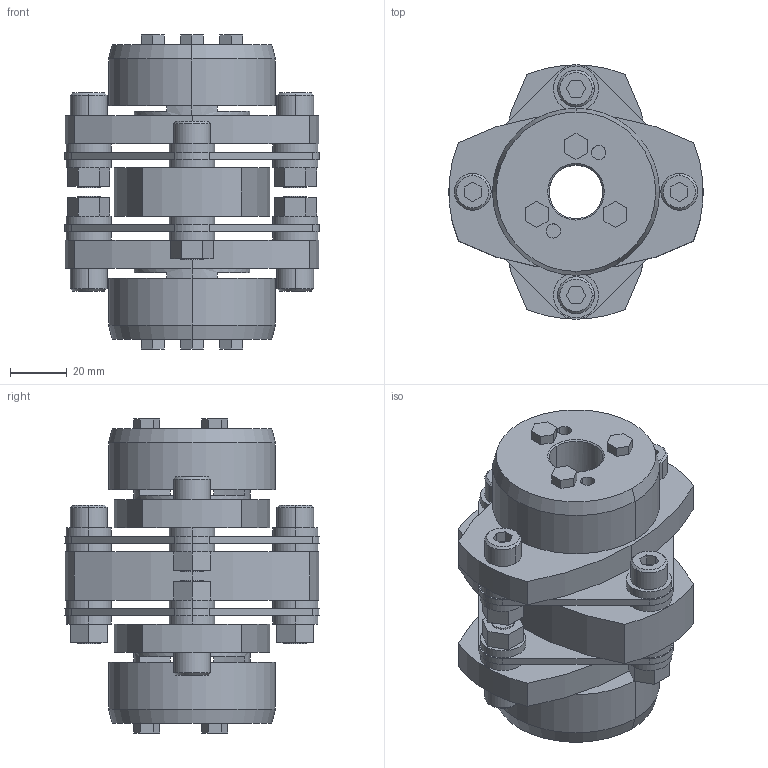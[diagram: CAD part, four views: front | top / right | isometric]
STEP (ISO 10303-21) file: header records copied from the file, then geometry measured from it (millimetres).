
FILE_DESCRIPTION((''),'2;1');
FILE_NAME('LCD-90T7-19×19.stp','2011-09-09T10:28:49',(''),(''),'AutoCAD STEP 2000i','AutoCAD 2000i',', , ');
FILE_SCHEMA(('CONFIG_CONTROL_DESIGN'));
Length unit declared in the file: millimetre
Products named in the file (5): LCD-90T7-19×19; 忣兜1; LC90T7-T019-1; LC90T7-T019; LCD90-ITA
Assembly tree (4 placements, depth 2):
  LCD-90T7-19×19
    忣兜1
    LC90T7-T019-1
    LC90T7-T019
    LCD90-ITA
Bounding box: 90 x 89.94 x 111 mm (x, y, z)
Volume: 278952.5 mm3; surface area: 73924.5 mm2
Topology: 1 solids, 1 shells, 320 faces, 780 edges, 512 vertices
Faces by surface type: plane 176, cylinder 120, cone 24
Entity records: 9635 total; most frequent: DIRECTION 1710, CARTESIAN_POINT 1617, ORIENTED_EDGE 1560, EDGE_CURVE 780, AXIS2_PLACEMENT_3D 605, VERTEX_POINT 512, VECTOR 500, LINE 500
